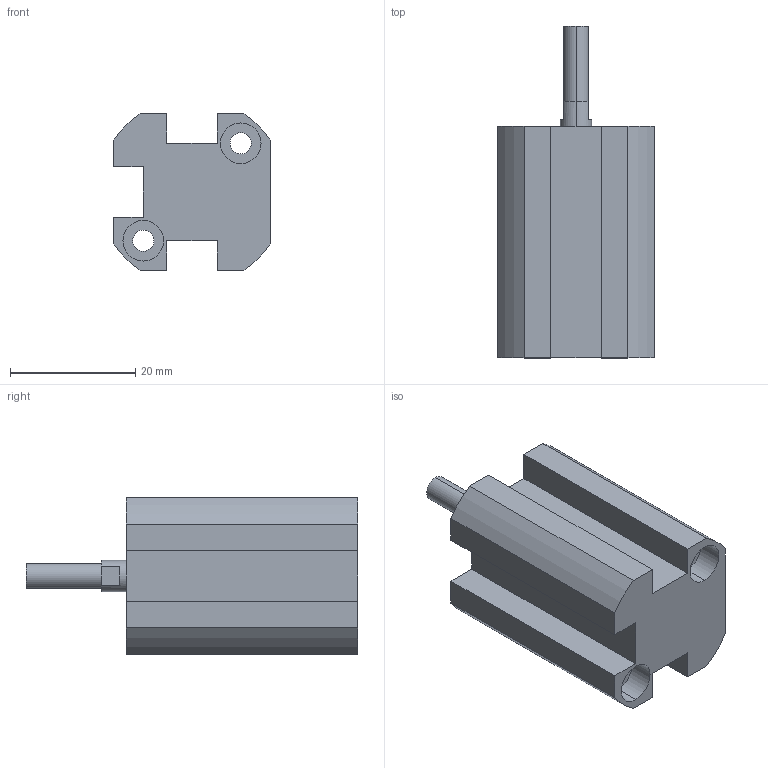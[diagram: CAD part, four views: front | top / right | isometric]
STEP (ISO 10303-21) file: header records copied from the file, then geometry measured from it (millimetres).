
FILE_DESCRIPTION (( 'STEP AP203' ), '1' );
FILE_NAME ('XG#M2-10-10.STEP', '2016-05-24T02:09:48', ( '' ), ( '' ), 'SwSTEP 2.0', 'SolidWorks 2014', '' );
FILE_SCHEMA (( 'CONFIG_CONTROL_DESIGN' ));
Length unit declared in the file: millimetre
Products named in the file (1): XG#M2-10-10
Bounding box: 25 x 53 x 25 mm (x, y, z)
Volume: 16444.1 mm3; surface area: 6947.1 mm2
Topology: 1 solids, 1 shells, 77 faces, 191 edges, 123 vertices
Faces by surface type: cylinder 39, plane 34, cone 4
Entity records: 2371 total; most frequent: DIRECTION 428, CARTESIAN_POINT 388, ORIENTED_EDGE 374, EDGE_CURVE 187, AXIS2_PLACEMENT_3D 163, VERTEX_POINT 123, LINE 102, VECTOR 102
